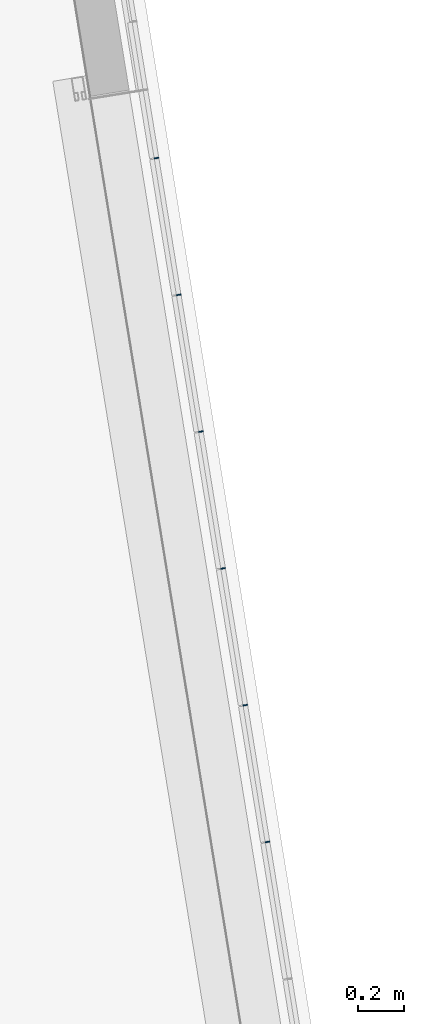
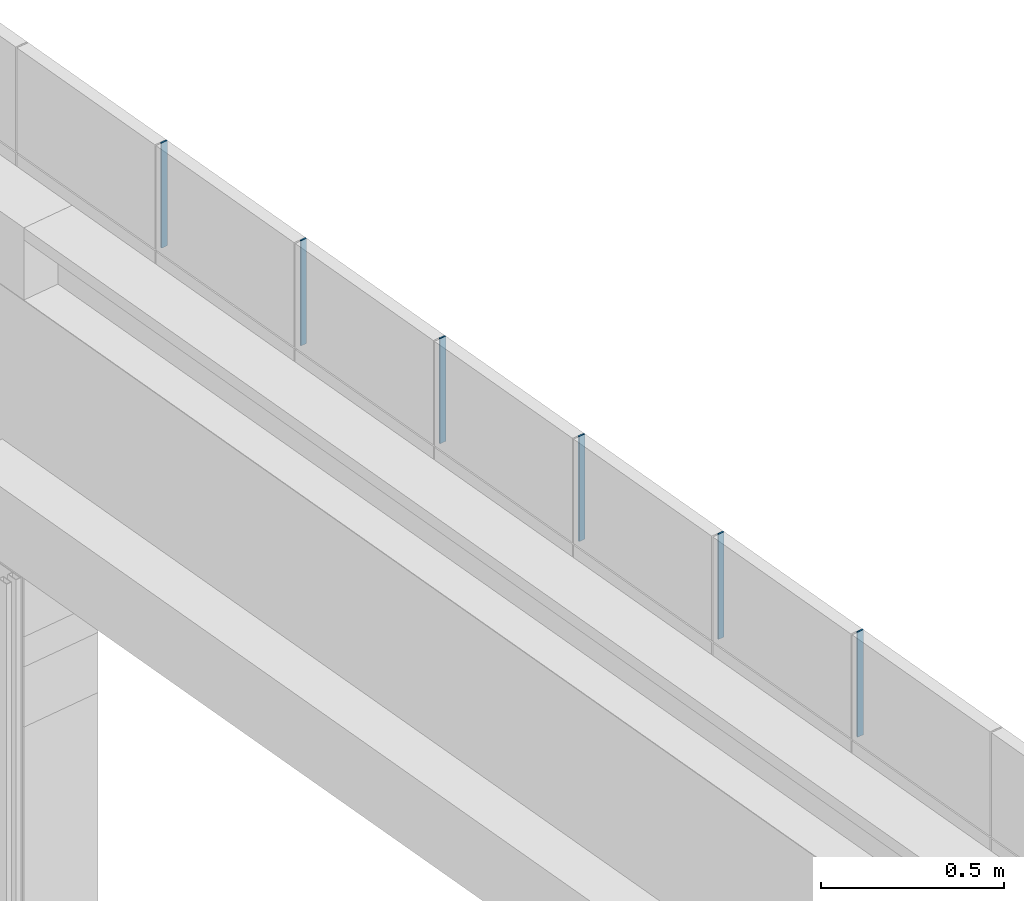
# One storey, part 20 of 38: 6 members, 1 element without a shape of its own.
"""IFC2X3 building model written with IfcOpenShell, lengths in millimetres."""

from ifc_helpers import new_model, entity, si_unit, converted_unit, derived_unit, direction, frame, origin, origin_with_axes, place, context, subcontext, project, spatial, faceted_brep, material, type_object, element, aggregate, save


model = new_model("IFC2X3")

# Units and contexts
model_context = context("Model", 3, precision=0.01, world=origin(), true_north=direction((6.12323399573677e-17, 1.0)))
plan_context = context("Plan", 3, precision=1e-05, world=origin_with_axes())
body_context = subcontext(model_context, "Body", "Model", "MODEL_VIEW")
ifc_project = project(units=[converted_unit("PLANEANGLEUNIT", "DEGREE", entity("IfcPositiveLengthMeasure", 0.0174532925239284), si_unit("PLANEANGLEUNIT", "RADIAN"), dimensions=[0, 0, 0, 0, 0, 0, 0]), si_unit("AREAUNIT", "SQUARE_METRE"), si_unit("LENGTHUNIT", "METRE", prefix="MILLI"), si_unit("MASSUNIT", "GRAM", prefix="KILO"), si_unit("POWERUNIT", "WATT"), si_unit("PRESSUREUNIT", "PASCAL", prefix="KILO"), si_unit("FORCEUNIT", "NEWTON", prefix="KILO"), si_unit("ELECTRICVOLTAGEUNIT", "VOLT"), si_unit("ELECTRICCURRENTUNIT", "AMPERE"), si_unit("THERMODYNAMICTEMPERATUREUNIT", "DEGREE_CELSIUS"), si_unit("TIMEUNIT", "SECOND"), si_unit("VOLUMEUNIT", "CUBIC_METRE"), derived_unit("LINEARVELOCITYUNIT", [(si_unit("LENGTHUNIT", "METRE"), 1), (si_unit("TIMEUNIT", "SECOND"), -1)]), derived_unit("VOLUMETRICFLOWRATEUNIT", [(si_unit("VOLUMEUNIT", "CUBIC_METRE"), 1), (si_unit("TIMEUNIT", "SECOND"), -1)]), derived_unit("THERMALTRANSMITTANCEUNIT", [(si_unit("POWERUNIT", "WATT"), 1), (si_unit("THERMODYNAMICTEMPERATUREUNIT", "KELVIN"), -1), (si_unit("AREAUNIT", "SQUARE_METRE"), -1)]), derived_unit("SOUNDPRESSUREUNIT", [(si_unit("PRESSUREUNIT", "PASCAL"), 1)])], contexts=[model_context, plan_context])

# Site, building, storey
site_placement = place(None, frame((-0.00071070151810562, 0.00438415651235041, 0.0), z_axis=(0.0, 0.0, 1.0), x_axis=(-0.160236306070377, 0.987078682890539, 0.0)))
site = spatial("IfcSite", under=ifc_project, at=site_placement, Name="Default", CompositionType="ELEMENT")
building_placement = place(site_placement, origin_with_axes())
building = spatial("IfcBuilding", under=site, at=building_placement, Name="TOO", CompositionType="ELEMENT")
storey_placement = place(building_placement, frame((0.0, 0.0, 50999.9999999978), z_axis=(0.0, 0.0, 1.0), x_axis=(1.0, 0.0, 0.0)))
storey = spatial("IfcBuildingStorey", under=building, at=storey_placement, Name="Nivå D-H01", CompositionType="ELEMENT", Elevation=50999.9999999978)

# Curtain wall, members
curtain_wall_type = type_object("IfcCurtainWallType", Name="Curtain Wall:Curtain Wall Standard (Bruk kun denne)", PredefinedType="NOTDEFINED")
curtain_wall_placement = place(storey_placement, frame((0.0, 0.0, -50999.9999999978), z_axis=(0.0, 0.0, 1.0), x_axis=(1.0, 0.0, 0.0)))
curtain_wall = element("IfcCurtainWall", 1, at=curtain_wall_placement, inside=storey, type_object=curtain_wall_type, Name="Curtain Wall:Curtain Wall Standard (Bruk kun denne)", ObjectType="Curtain Wall:Curtain Wall Standard (Bruk kun denne)")
ifc_material = material(Name="Rubber")
member_type = type_object("IfcMemberType", Name="Rectangular Mullion:A246 - Fuge 5mm L09", PredefinedType="MULLION", material=ifc_material)
member_1_placement = place(curtain_wall_placement, frame((777177.619644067, -604232.480498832, 54850.0), z_axis=(0.0, 0.0, -1.0), x_axis=(-1.0, 0.0, 0.0)))
member_1 = element("IfcMember", 2, at=member_1_placement, type_object=member_type, Name="Rectangular Mullion:A246 - Fuge 5mm L09", ObjectType="Rectangular Mullion:A246 - Fuge 5mm L09", context=body_context, shape_type="Brep", body=[
    faceted_brep([(2.5, 20.0, -349.999999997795), (2.5, -1.77635683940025e-15, -349.999999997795), (2.5, -1.77635683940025e-15, 2.20916263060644e-09), (2.5, 20.0, 2.20916263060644e-09), (-2.5, 20.0, -349.999999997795), (-2.5, 20.0, 2.20916263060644e-09), (-2.5, -1.77635683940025e-15, -349.999999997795), (-2.5, -1.77635683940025e-15, 2.20916263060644e-09)], [[[0, 1, 2, 3]], [[4, 0, 3, 5]], [[6, 4, 5, 7]], [[1, 6, 7, 2]], [[3, 2, 7, 5]], [[4, 6, 1, 0]]], orient=[[False], [False], [False], [False], [False], [False]]),
])
member_2_placement = place(curtain_wall_placement, frame((776577.619644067, -604232.480498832, 54850.0), z_axis=(0.0, 0.0, -1.0), x_axis=(-1.0, 0.0, 0.0)))
member_2 = element("IfcMember", 3, at=member_2_placement, type_object=member_type, Name="Rectangular Mullion:A246 - Fuge 5mm L09", ObjectType="Rectangular Mullion:A246 - Fuge 5mm L09", context=body_context, shape_type="Brep", body=[
    faceted_brep([(2.5, 20.0, -349.999999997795), (2.5, -1.77635683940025e-15, -349.999999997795), (2.5, -1.77635683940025e-15, 2.20916263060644e-09), (2.5, 20.0, 2.20916263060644e-09), (-2.5, 20.0, -349.999999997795), (-2.5, 20.0, 2.20916263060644e-09), (-2.5, -1.77635683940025e-15, -349.999999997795), (-2.5, -1.77635683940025e-15, 2.20916263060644e-09)], [[[0, 1, 2, 3]], [[4, 0, 3, 5]], [[6, 4, 5, 7]], [[1, 6, 7, 2]], [[3, 2, 7, 5]], [[4, 6, 1, 0]]], orient=[[False], [False], [False], [False], [False], [False]]),
])
member_3_placement = place(curtain_wall_placement, frame((775377.619644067, -604232.480498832, 54850.0), z_axis=(0.0, 0.0, -1.0), x_axis=(-1.0, 0.0, 0.0)))
member_3 = element("IfcMember", 4, at=member_3_placement, type_object=member_type, Name="Rectangular Mullion:A246 - Fuge 5mm L09", ObjectType="Rectangular Mullion:A246 - Fuge 5mm L09", context=body_context, shape_type="Brep", body=[
    faceted_brep([(2.5, 20.0, -349.999999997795), (2.5, -1.77635683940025e-15, -349.999999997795), (2.5, -1.77635683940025e-15, 2.20916263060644e-09), (2.5, 20.0, 2.20916263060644e-09), (-2.5, 20.0, -349.999999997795), (-2.5, 20.0, 2.20916263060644e-09), (-2.5, -1.77635683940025e-15, -349.999999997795), (-2.5, -1.77635683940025e-15, 2.20916263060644e-09)], [[[0, 1, 2, 3]], [[4, 0, 3, 5]], [[6, 4, 5, 7]], [[1, 6, 7, 2]], [[3, 2, 7, 5]], [[4, 6, 1, 0]]], orient=[[False], [False], [False], [False], [False], [False]]),
])
member_4_placement = place(curtain_wall_placement, frame((774777.619644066, -604232.480498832, 54850.0), z_axis=(0.0, 0.0, -1.0), x_axis=(-1.0, 0.0, 0.0)))
member_4 = element("IfcMember", 5, at=member_4_placement, type_object=member_type, Name="Rectangular Mullion:A246 - Fuge 5mm L09", ObjectType="Rectangular Mullion:A246 - Fuge 5mm L09", context=body_context, shape_type="Brep", body=[
    faceted_brep([(2.5, 20.0, -349.999999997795), (2.5, -1.77635683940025e-15, -349.999999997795), (2.5, -1.77635683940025e-15, 2.20916263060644e-09), (2.5, 20.0, 2.20916263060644e-09), (-2.5, 20.0, -349.999999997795), (-2.5, 20.0, 2.20916263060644e-09), (-2.5, -1.77635683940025e-15, -349.999999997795), (-2.5, -1.77635683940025e-15, 2.20916263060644e-09)], [[[0, 1, 2, 3]], [[4, 0, 3, 5]], [[6, 4, 5, 7]], [[1, 6, 7, 2]], [[3, 2, 7, 5]], [[4, 6, 1, 0]]], orient=[[False], [False], [False], [False], [False], [False]]),
])
member_5_placement = place(curtain_wall_placement, frame((774177.619644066, -604232.480498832, 54850.0), z_axis=(0.0, 0.0, -1.0), x_axis=(-1.0, 0.0, 0.0)))
member_5 = element("IfcMember", 6, at=member_5_placement, type_object=member_type, Name="Rectangular Mullion:A246 - Fuge 5mm L09", ObjectType="Rectangular Mullion:A246 - Fuge 5mm L09", context=body_context, shape_type="Brep", body=[
    faceted_brep([(2.5, 20.0, -349.999999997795), (2.5, -1.77635683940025e-15, -349.999999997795), (2.5, -1.77635683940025e-15, 2.20916263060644e-09), (2.5, 20.0, 2.20916263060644e-09), (-2.5, 20.0, -349.999999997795), (-2.5, 20.0, 2.20916263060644e-09), (-2.5, -1.77635683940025e-15, -349.999999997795), (-2.5, -1.77635683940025e-15, 2.20916263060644e-09)], [[[0, 1, 2, 3]], [[4, 0, 3, 5]], [[6, 4, 5, 7]], [[1, 6, 7, 2]], [[3, 2, 7, 5]], [[4, 6, 1, 0]]], orient=[[False], [False], [False], [False], [False], [False]]),
])
member_6_placement = place(curtain_wall_placement, frame((775977.619644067, -604232.480498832, 54850.0), z_axis=(0.0, 0.0, -1.0), x_axis=(-1.0, 0.0, 0.0)))
member_6 = element("IfcMember", 7, at=member_6_placement, type_object=member_type, Name="Rectangular Mullion:A246 - Fuge 5mm L09", ObjectType="Rectangular Mullion:A246 - Fuge 5mm L09", context=body_context, shape_type="Brep", body=[
    faceted_brep([(2.5, 20.0, -349.999999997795), (2.5, -1.77635683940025e-15, -349.999999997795), (2.5, -1.77635683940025e-15, 2.20916263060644e-09), (2.5, 20.0, 2.20916263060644e-09), (-2.5, 20.0, -349.999999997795), (-2.5, 20.0, 2.20916263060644e-09), (-2.5, -1.77635683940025e-15, -349.999999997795), (-2.5, -1.77635683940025e-15, 2.20916263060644e-09)], [[[0, 1, 2, 3]], [[4, 0, 3, 5]], [[6, 4, 5, 7]], [[1, 6, 7, 2]], [[3, 2, 7, 5]], [[4, 6, 1, 0]]], orient=[[False], [False], [False], [False], [False], [False]]),
])
aggregate(curtain_wall, [member_1, member_2, member_3, member_4, member_5, member_6])

save(model, "model.ifc")
